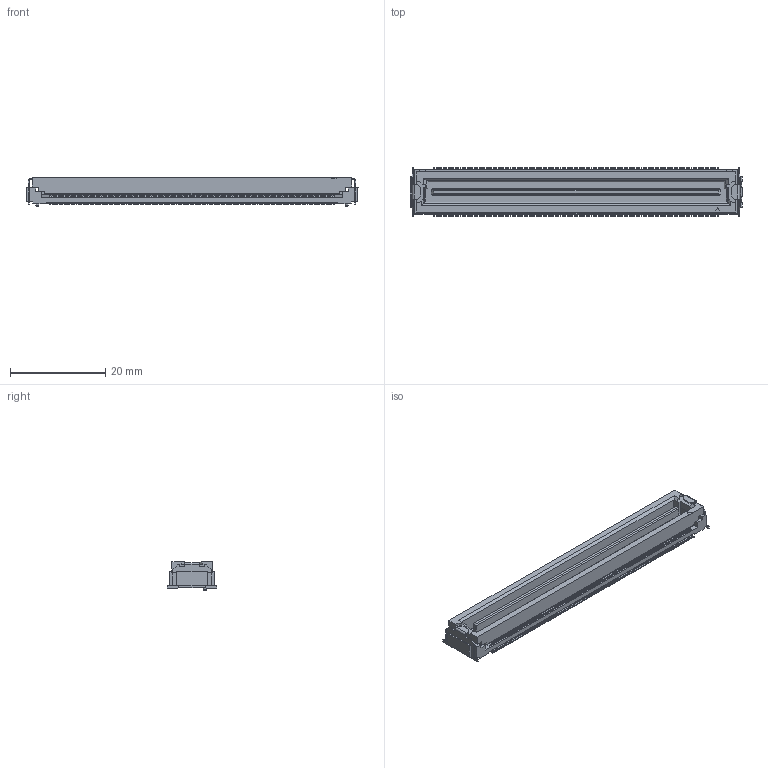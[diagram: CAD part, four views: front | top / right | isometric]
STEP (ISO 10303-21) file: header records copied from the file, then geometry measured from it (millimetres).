
FILE_DESCRIPTION(('Creo Elements/Direct Modeling STEP Export'),'2;1');
FILE_NAME('P3D071_DT01-240S-TR-T.stp','2017-08-11T 9:57:06',(''),(''),'Creo Elements/Direct Modeling STEP processor for AP214 (Solid Model)','Creo Elements/Direct Modeling 19.0F 14-Feb-2017 (C) Parametric Technology GmbH','');
FILE_SCHEMA(('AUTOMOTIVE_DESIGN { 1 0 10303 214 1 1 1 1 }'));
Products named in the file (2): DT01-240S-TR-T
Assembly tree (1 placements, depth 2):
  DT01-240S-TR-T
    DT01-240S-TR-T
Bounding box: 69.7 x 10.38 x 5.95 mm (x, y, z)
Volume: 2005.5 mm3; surface area: 4222.9 mm2
Topology: 1 solids, 1 shells, 6742 faces, 18507 edges, 12010 vertices
Faces by surface type: plane 5278, cylinder 1460, cone 4
Entity records: 208699 total; most frequent: ORIENTED_EDGE 37014, CARTESIAN_POINT 36337, DIRECTION 33502, EDGE_CURVE 18507, VECTOR 15152, LINE 15152, VERTEX_POINT 12010, AXIS2_PLACEMENT_3D 9175
